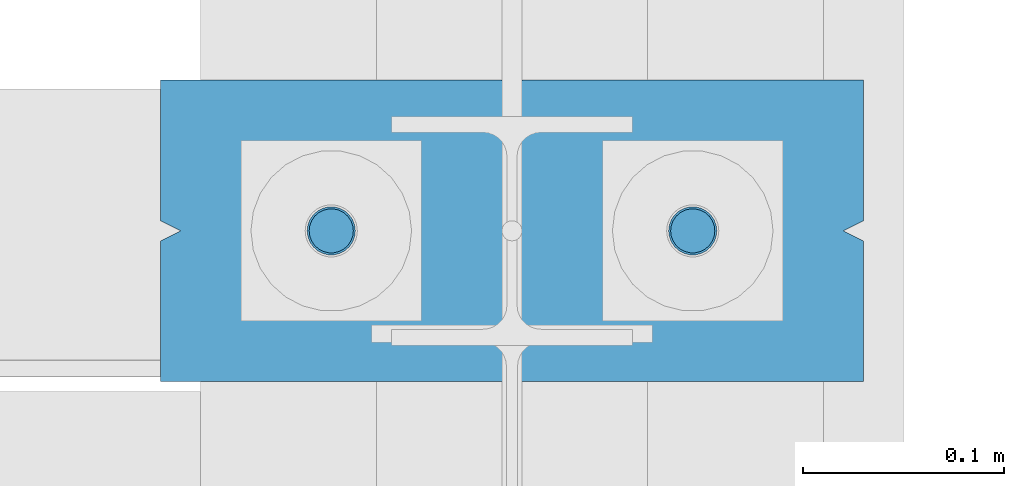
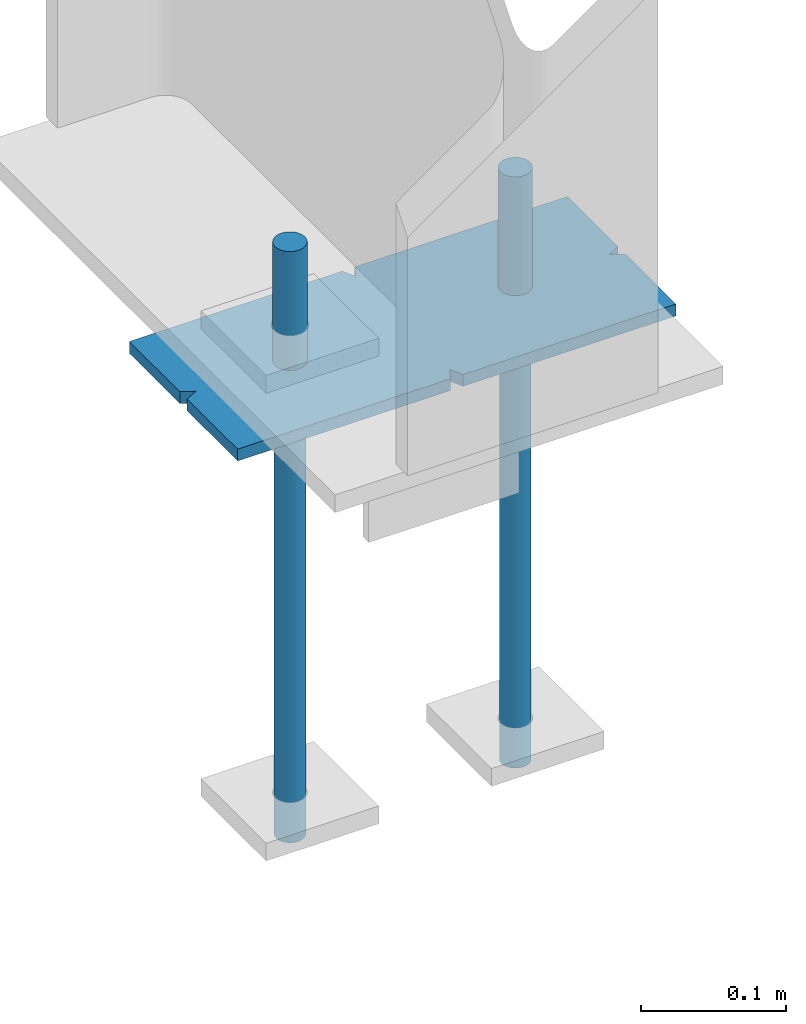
# One storey, part 90 of 123: 5 discrete accessories, 1 element without a shape of its own.
"""IFC2X3 building model written with IfcOpenShell, lengths in millimetres."""

import ifcopenshell
import ifcopenshell.guid

model = None  # the IFC model being written
_history = None  # IfcOwnerHistory: only IFC2X3 demands one
_inside = {}  # id of a spatial element -> (the spatial element, [elements in it])
_under = {}  # id of a project, library or spatial element -> (it, [spatial elements below it])
_declared = {}  # id of a project -> (the project, [libraries it declares])
_typed = {}  # id of a type object -> (the type object, [elements of that type])
_made_of = {}  # id of a material, layer set ... -> (it, [elements and type objects made of it])


def new_model(schema):
    """Start an empty IFC model of exactly this schema.

    Asked for "IFC4X3", IfcOpenShell would pick the latest addendum, in which some entities
    have other attributes; the version numbers below select the first issue.
    IFC2X3 requires an IfcOwnerHistory on every rooted entity: one is made here for all.
    """
    global model, _history
    if schema == "IFC4X3":
        model = ifcopenshell.file(schema_version=(4, 3, 0, 0))
    else:
        model = ifcopenshell.file(schema=schema)
    _inside.clear()
    _under.clear()
    _declared.clear()
    _typed.clear()
    _made_of.clear()
    _history = None
    if model.schema == "IFC2X3":
        org = make("IfcOrganization", Name="unknown")
        user = make(
            "IfcPersonAndOrganization",
            ThePerson=make("IfcPerson", FamilyName="unknown"),
            TheOrganization=org,
        )
        app = make(
            "IfcApplication",
            ApplicationDeveloper=org,
            Version="unknown",
            ApplicationFullName="unknown",
            ApplicationIdentifier="unknown",
        )
        _history = make(
            "IfcOwnerHistory",
            OwningUser=user,
            OwningApplication=app,
            ChangeAction="ADDED",
            CreationDate=0,
        )
    return model


def make(cls, **values):
    """One entity of the class cls with the attributes given. An attribute that is None is left unset."""
    return model.create_entity(
        cls, **{name: value for name, value in values.items() if value is not None}
    )


def rooted(cls, **values):
    """An entity with a GlobalId (a new one), such as an element, a storey or a relation."""
    return make(cls, GlobalId=ifcopenshell.guid.new(), OwnerHistory=_history, **values)


def si_unit(unit_type, name, prefix=None):
    """IfcSIUnit, for example si_unit("LENGTHUNIT", "METRE", prefix="MILLI")."""
    return make("IfcSIUnit", UnitType=unit_type, Prefix=prefix, Name=name)


def assignment(units):
    """IfcUnitAssignment: the units of a project."""
    return None if units is None else make("IfcUnitAssignment", Units=units)


def point(xyz):
    """IfcCartesianPoint."""
    return None if xyz is None else make("IfcCartesianPoint", Coordinates=xyz)


def direction(xyz):
    """IfcDirection."""
    return None if xyz is None else make("IfcDirection", DirectionRatios=xyz)


def frame(location, z_axis=None, x_axis=None):
    """IfcAxis2Placement3D, a coordinate frame: its origin and axes. An axis left out is left unset."""
    return make(
        "IfcAxis2Placement3D",
        Location=point(location),
        Axis=direction(z_axis),
        RefDirection=direction(x_axis),
    )


def frame_2d(location, x_axis=None):
    """IfcAxis2Placement2D, a coordinate frame in the plane: its origin and x axis."""
    return make(
        "IfcAxis2Placement2D", Location=point(location), RefDirection=direction(x_axis)
    )


def origin_with_axes():
    """The frame at (0, 0, 0) with the z axis (0, 0, 1) and the x axis (1, 0, 0) written out."""
    return frame((0.0, 0.0, 0.0), z_axis=(0.0, 0.0, 1.0), x_axis=(1.0, 0.0, 0.0))


def origin_2d_with_axis():
    """The frame at (0, 0) in the plane with the x axis (1, 0) written out."""
    return frame_2d((0.0, 0.0), x_axis=(1.0, 0.0))


def place(relative_to, where):
    """IfcLocalPlacement: puts the frame where relative to a parent placement (None: the world)."""
    return make(
        "IfcLocalPlacement", PlacementRelTo=relative_to, RelativePlacement=where
    )


def context(
    kind, dimensions, precision=None, world=None, true_north=None, identifier=None
):
    """IfcGeometricRepresentationContext, for example the 3D "Model" context."""
    return make(
        "IfcGeometricRepresentationContext",
        ContextIdentifier=identifier,
        ContextType=kind,
        CoordinateSpaceDimension=dimensions,
        Precision=precision,
        WorldCoordinateSystem=world,
        TrueNorth=true_north,
    )


def subcontext(parent, identifier, kind, view, scale=None):
    """IfcGeometricRepresentationSubContext, for example "Body" below "Model"."""
    return make(
        "IfcGeometricRepresentationSubContext",
        ContextIdentifier=identifier,
        ContextType=kind,
        ParentContext=parent,
        TargetScale=scale,
        TargetView=view,
    )


def project(units=None, contexts=None):
    """IfcProject with its units and contexts."""
    return rooted(
        "IfcProject",
        Name="project",
        RepresentationContexts=contexts,
        UnitsInContext=assignment(units),
    )


def spatial(cls, under=None, at=None, **own):
    """A site, building, storey or space (cls), placed at a placement, below another one or the project."""
    s = rooted(cls, ObjectPlacement=at, **own)
    if under is not None:
        _under.setdefault(under.id(), (under, []))[1].append(s)
    return s


def polyline(points):
    """IfcPolyline through the points."""
    return make("IfcPolyline", Points=[point(p) for p in points])


def profile(cls, at=None, kind="AREA", **sizes):
    """A parametric profile (cls). Its sizes go by their IFC names, for example OverallWidth=200.0."""
    return make(cls, ProfileType=kind, Position=at, **sizes)


def circle(**sizes):
    """IfcCircleProfileDef."""
    return profile("IfcCircleProfileDef", **sizes)


def outline(outer, holes=None, kind="AREA"):
    """IfcArbitraryClosedProfileDef: a profile drawn as a closed curve; with holes, ...WithVoids."""
    if holes is None:
        return make("IfcArbitraryClosedProfileDef", ProfileType=kind, OuterCurve=outer)
    return make(
        "IfcArbitraryProfileDefWithVoids",
        ProfileType=kind,
        OuterCurve=outer,
        InnerCurves=holes,
    )


def extrude(swept, where, along, depth):
    """IfcExtrudedAreaSolid: the profile swept, set in the frame where, extruded along a direction by depth."""
    return make(
        "IfcExtrudedAreaSolid",
        SweptArea=swept,
        Position=where,
        ExtrudedDirection=direction(along),
        Depth=depth,
    )


def boolean(op, a, b):
    """IfcBooleanResult of two solids."""
    return make("IfcBooleanResult", Operator=op, FirstOperand=a, SecondOperand=b)


def shape(context_of_items, identifier, shape_type, items):
    """IfcShapeRepresentation: the items that make up one representation, for example the "Body"."""
    return make(
        "IfcShapeRepresentation",
        ContextOfItems=context_of_items,
        RepresentationIdentifier=identifier,
        RepresentationType=shape_type,
        Items=items,
    )


def material(Name=None, Category=None):
    """IfcMaterial."""
    return make("IfcMaterial", Name=Name, Category=Category)


def made_of(thing, what):
    """Note that an element or type object is made of a material, layer set ...; save() writes the relation."""
    if what is not None:
        _made_of.setdefault(what.id(), (what, []))[1].append(thing)
    return thing


def type_object(cls, material=None, **own):
    """A type object (cls), such as IfcWallType, which elements share."""
    return made_of(rooted(cls, **own), material)


def element(
    cls,
    number,
    at=None,
    inside=None,
    cuts=None,
    type_object=None,
    material=None,
    context=None,
    identifier="Body",
    shape_type=None,
    held_by="IfcProductDefinitionShape",
    body=None,
    shapes=None,
    **own,
):
    """One element of the class cls, such as IfcWall. Its Tag is "e" and its number.

    at: its placement. inside: the storey or other place that contains it. cuts: it is an
    opening in that element (IfcRelVoidsElement). A single representation is given by context,
    identifier, shape_type and body (its items); several are given by shapes. held_by: the class
    of the entity that holds the representations. save() writes the other relations.
    """
    e = rooted(cls, Tag="e%d" % number, ObjectPlacement=at, **own)
    if body is not None:
        shapes = [shape(context, identifier, shape_type, body)]
    if shapes is not None:
        e.Representation = make(held_by, Representations=shapes)
    if inside is not None:
        _inside.setdefault(inside.id(), (inside, []))[1].append(e)
    if cuts is not None:
        rooted(
            "IfcRelVoidsElement", RelatingBuildingElement=cuts, RelatedOpeningElement=e
        )
    if type_object is not None:
        _typed.setdefault(type_object.id(), (type_object, []))[1].append(e)
    return made_of(e, material)


def aggregate(whole, parts):
    """IfcRelAggregates: a whole, such as a stair, and the parts it consists of."""
    return rooted("IfcRelAggregates", RelatingObject=whole, RelatedObjects=parts)


def save(model, path):
    """Write the relations noted so far, then the file.

    IfcRelAggregates (storeys below a building ...), IfcRelContainedInSpatialStructure (elements
    in a storey), IfcRelDefinesByType, IfcRelAssociatesMaterial and IfcRelDeclares: one each for
    every whole, place, type object, material and project.
    """
    for whole, parts in _under.values():
        aggregate(whole, parts)
    for where, things in _inside.values():
        rooted(
            "IfcRelContainedInSpatialStructure",
            RelatedElements=things,
            RelatingStructure=where,
        )
    for kind, things in _typed.values():
        rooted("IfcRelDefinesByType", RelatedObjects=things, RelatingType=kind)
    for what, things in _made_of.values():
        rooted("IfcRelAssociatesMaterial", RelatedObjects=things, RelatingMaterial=what)
    for by, libraries in _declared.values():
        rooted("IfcRelDeclares", RelatingContext=by, RelatedDefinitions=libraries)
    model.write(path)


model = new_model("IFC2X3")

# Units and contexts
model_context = context("Model", 3, precision=1e-05, world=origin_with_axes())
body_context = subcontext(model_context, "Body", "Model", "MODEL_VIEW")
ifc_project = project(units=[si_unit("LENGTHUNIT", "METRE", prefix="MILLI"), si_unit("AREAUNIT", "SQUARE_METRE"), si_unit("VOLUMEUNIT", "CUBIC_METRE"), si_unit("MASSUNIT", "GRAM", prefix="KILO"), si_unit("TIMEUNIT", "SECOND"), si_unit("PLANEANGLEUNIT", "RADIAN"), si_unit("SOLIDANGLEUNIT", "STERADIAN"), si_unit("THERMODYNAMICTEMPERATUREUNIT", "DEGREE_CELSIUS"), si_unit("LUMINOUSINTENSITYUNIT", "LUMEN")], contexts=[model_context])

# Site, building, storey
site_placement = place(None, origin_with_axes())
site = spatial("IfcSite", under=ifc_project, at=site_placement, Name="Undefined", CompositionType="ELEMENT")
building_placement = place(site_placement, origin_with_axes())
building = spatial("IfcBuilding", under=site, at=building_placement, Name="Undefined", CompositionType="ELEMENT")
storey_placement = place(building_placement, origin_with_axes())
storey = spatial("IfcBuildingStorey", under=building, at=storey_placement, Name="Undefined", CompositionType="ELEMENT", Elevation=0.0)

# Assembly, discrete accessories
assembly_placement = place(storey_placement, origin_with_axes())
assembly = element("IfcElementAssembly", 1, at=assembly_placement, inside=storey, Name="Steel Assembly", AssemblyPlace="NOTDEFINED", PredefinedType="RIGID_FRAME")
ifc_material = material(Name="STEEL/S235-E24")
discrete_accessory_type_1 = type_object("IfcDiscreteAccessoryType", Name="TIGE D'ANCRAGE")
discrete_accessory_1_placement = place(assembly_placement, frame((39539.9971504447, 0.0, -150.0), z_axis=(0.0, 1.0, 0.0), x_axis=(0.0, 0.0, -1.0)))
discrete_accessory_1 = element("IfcDiscreteAccessory", 2, at=discrete_accessory_1_placement, type_object=discrete_accessory_type_1, material=ifc_material, Name="TIGE D'ANCRAGE", ObjectType="D24", context=body_context, shape_type="SweptSolid", body=[
    extrude(circle(Radius=12.0, at=origin_2d_with_axis()), frame((150.0, 0.0, 0.0), z_axis=(-1.0, 0.0, 0.0), x_axis=(0.0, -1.0, 0.0)), (0.0, 0.0, 1.0), 150.0),
])
discrete_accessory_2_placement = place(assembly_placement, frame((39539.9971504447, 0.0, -300.0), z_axis=(0.0, 1.0, 0.0), x_axis=(0.0, 0.0, -1.0)))
discrete_accessory_2 = element("IfcDiscreteAccessory", 3, at=discrete_accessory_2_placement, type_object=discrete_accessory_type_1, material=ifc_material, Name="TIGE D'ANCRAGE", ObjectType="D22", context=body_context, shape_type="SweptSolid", body=[
    extrude(circle(Radius=11.0, at=origin_2d_with_axis()), frame((350.0, 0.0, 0.0), z_axis=(-1.0, 0.0, 0.0), x_axis=(0.0, -1.0, 0.0)), (0.0, 0.0, 1.0), 350.0),
])
discrete_accessory_3_placement = place(assembly_placement, frame((39719.9971504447, 0.0, -150.0), z_axis=(0.0, 1.0, 0.0), x_axis=(0.0, 0.0, -1.0)))
discrete_accessory_3 = element("IfcDiscreteAccessory", 4, at=discrete_accessory_3_placement, type_object=discrete_accessory_type_1, material=ifc_material, Name="TIGE D'ANCRAGE", ObjectType="D24", context=body_context, shape_type="SweptSolid", body=[
    extrude(circle(Radius=12.0, at=origin_2d_with_axis()), frame((150.0, 0.0, 0.0), z_axis=(-1.0, 0.0, 0.0), x_axis=(0.0, -1.0, 0.0)), (0.0, 0.0, 1.0), 150.0),
])
discrete_accessory_4_placement = place(assembly_placement, frame((39719.9971504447, 0.0, -300.0), z_axis=(0.0, 1.0, 0.0), x_axis=(0.0, 0.0, -1.0)))
discrete_accessory_4 = element("IfcDiscreteAccessory", 5, at=discrete_accessory_4_placement, type_object=discrete_accessory_type_1, material=ifc_material, Name="TIGE D'ANCRAGE", ObjectType="D22", context=body_context, shape_type="SweptSolid", body=[
    extrude(circle(Radius=11.0, at=origin_2d_with_axis()), frame((350.0, 0.0, 0.0), z_axis=(-1.0, 0.0, 0.0), x_axis=(0.0, -1.0, 0.0)), (0.0, 0.0, 1.0), 350.0),
])
discrete_accessory_type_2 = type_object("IfcDiscreteAccessoryType", Name="PRESCELLEMENT PS24")
discrete_accessory_5_placement = place(assembly_placement, frame((39805.0, 0.0, -255.0), z_axis=(0.0, 0.0, 1.0), x_axis=(-1.0, 0.0, 0.0)))
discrete_accessory_5 = element("IfcDiscreteAccessory", 6, at=discrete_accessory_5_placement, type_object=discrete_accessory_type_2, material=ifc_material, Name="PRESCELLEMENT PS24", ObjectType="PL10*150", context=body_context, shape_type="CSG", body=[
    boolean("DIFFERENCE", boolean("DIFFERENCE", boolean("DIFFERENCE", boolean("DIFFERENCE", extrude(outline(polyline([(175.000000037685, -65.0000000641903), (169.999999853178, -74.9999999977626), (0.0, -75.0), (0.0, -5.0), (9.99999993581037, -3.76858224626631e-08), (0.0, 5.00000014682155), (0.0, 75.0), (170.0, 75.0), (174.999999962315, 65.0000000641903), (180.000000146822, 75.0), (350.0, 75.0), (350.0, 5.00000018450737), (340.0, 0.0), (350.0, -4.99999996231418), (350.0, -75.0), (180.0, -75.0), (175.000000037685, -65.0000000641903)])), frame((0.0, 0.0, -5.0), z_axis=(0.0, 0.0, 1.0), x_axis=(1.0, 0.0, 0.0)), (0.0, 0.0, 1.0), 10.0), extrude(outline(polyline([(0.0, 0.0), (11.1803398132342, 1.2732925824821e-11), (4.47213602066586, 8.94427204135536), (0.0, 0.0)])), frame((0.0, -5.0, -7.5), z_axis=(0.0, 0.0, 1.0), x_axis=(0.89442719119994, 0.44721359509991, 0.0)), (0.0, 0.0, 1.0), 15.0)), extrude(outline(polyline([(0.0, 0.0), (11.1803398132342, 1.2732925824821e-11), (4.47213602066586, 8.94427204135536), (0.0, 0.0)])), frame((180.0, -75.0, -7.5), z_axis=(0.0, 0.0, 1.0), x_axis=(-0.447213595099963, 0.894427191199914, 0.0)), (0.0, 0.0, 1.0), 15.0)), extrude(outline(polyline([(0.0, 0.0), (11.1803398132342, 1.2732925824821e-11), (6.70820379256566, 8.94427204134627), (0.0, 0.0)])), frame((340.0, 0.0, -7.5), z_axis=(0.0, 0.0, 1.0), x_axis=(0.89442719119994, -0.44721359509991, 0.0)), (0.0, 0.0, 1.0), 15.0)), extrude(outline(polyline([(0.0, 0.0), (11.1803398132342, 1.2732925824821e-11), (4.47213602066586, 8.94427204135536), (0.0, 0.0)])), frame((170.0, 75.0, -7.5), z_axis=(0.0, 0.0, 1.0), x_axis=(0.447213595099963, -0.894427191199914, 0.0)), (0.0, 0.0, 1.0), 15.0)),
])
aggregate(assembly, [discrete_accessory_1, discrete_accessory_2, discrete_accessory_3, discrete_accessory_4, discrete_accessory_5])

save(model, "model.ifc")
